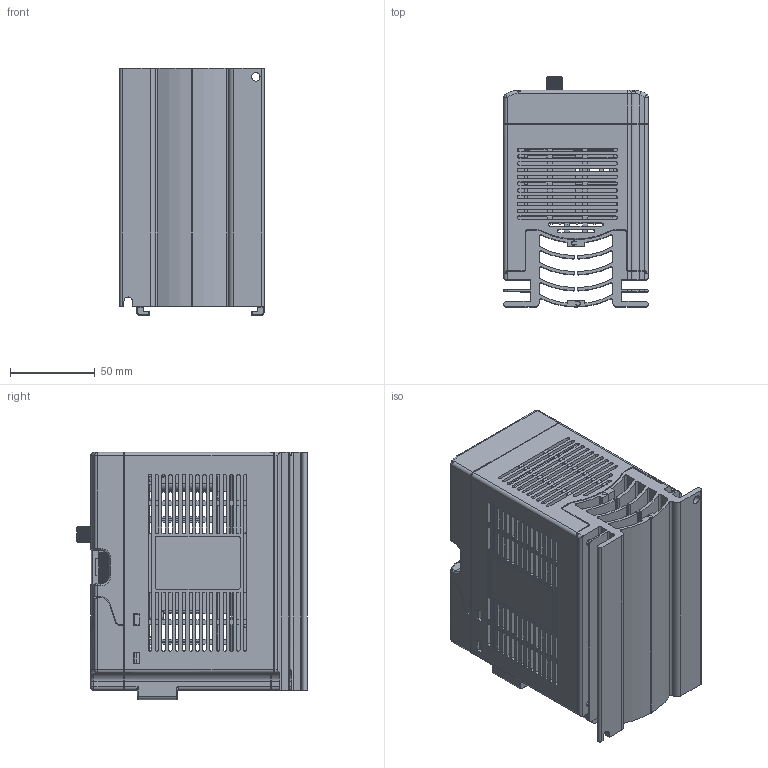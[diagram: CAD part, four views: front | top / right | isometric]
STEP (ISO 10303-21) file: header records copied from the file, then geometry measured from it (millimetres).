
FILE_DESCRIPTION((''),'2;1');
FILE_NAME('GD10-0R7-2_ASM_1_ASM','2019-11-21T',('Administrator'),(''),'PRO/ENGINEER BY PARAMETRIC TECHNOLOGY CORPORATION, 2010280','PRO/ENGINEER BY PARAMETRIC TECHNOLOGY CORPORATION, 2010280','');
FILE_SCHEMA(('CONFIG_CONTROL_DESIGN'));
Length unit declared in the file: millimetre
Products named in the file (21): 40830004_ASM_1_ASM; 70610058_1; 70610122_1; 40830005_ASM_1_ASM; GD10-0R7-DRIVER_1; 80740100_1; 80740061_1; 80740061SY1_ASM_1_ASM; 80740059_1; 80740059SY1_ASM_1_ASM; GD10-CONTRAL_1; GD10-CONTROL_TERMINAL_01_1; GD10-CONTROL_TERMINAL_02_1; GD10-CONTRAL_ASM_1_ASM; 80810010_1; 80710012_1; LD100-JP-PCB_1; 80740127_1; GD100-JP_ASM_1_ASM; 80740101_1; GD10-0R7-2_ASM_1_ASM
Assembly tree (23 placements, depth 3):
  GD10-0R7-2_ASM_1_ASM
    40830004_ASM_1_ASM
    40830005_ASM_1_ASM
      70610058_1
      70610122_1
    GD10-0R7-DRIVER_1
    80740100_1
    80740061SY1_ASM_1_ASM
      80740061_1
    80740059SY1_ASM_1_ASM
      80740059_1
    GD10-CONTRAL_ASM_1_ASM
      GD10-CONTRAL_1
      GD10-CONTROL_TERMINAL_01_1  x4
      GD10-CONTROL_TERMINAL_02_1
    GD100-JP_ASM_1_ASM
      80810010_1
      80710012_1
      LD100-JP-PCB_1
      80740127_1
    80740101_1
Bounding box: 85.1 x 135.55 x 145.5 mm (x, y, z)
Volume: 429887.7 mm3; surface area: 378625 mm2
Topology: 17 solids, 17 shells, 4847 faces, 14024 edges, 9217 vertices
Faces by surface type: plane 3126, cylinder 1201, bspline 160, cone 150, torus 146, sphere 56, extrusion 6, revolution 2
Entity records: 167218 total; most frequent: CARTESIAN_POINT 39687, ORIENTED_EDGE 27524, DIRECTION 25350, EDGE_CURVE 13762, VECTOR 9762, LINE 9756, VERTEX_POINT 9083, AXIS2_PLACEMENT_3D 7793
